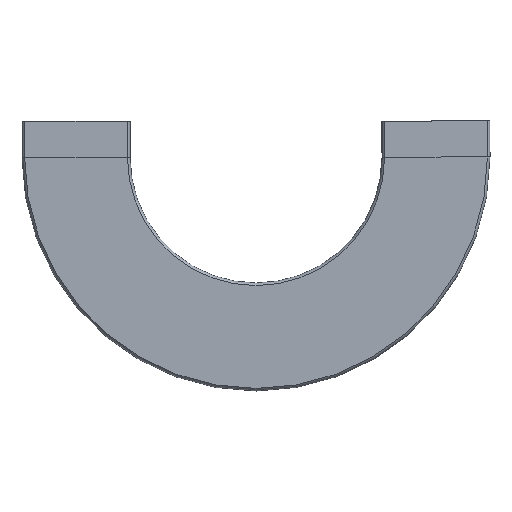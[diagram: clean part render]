
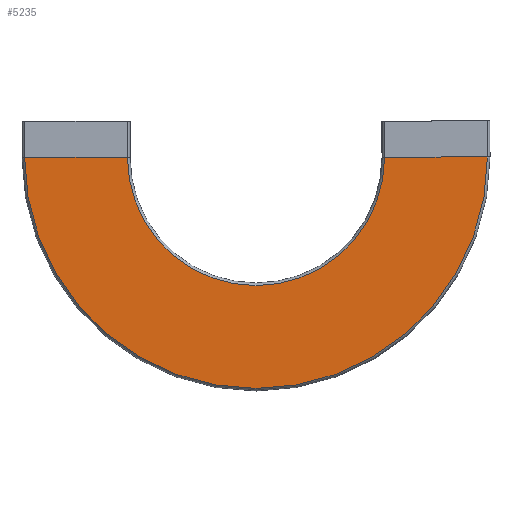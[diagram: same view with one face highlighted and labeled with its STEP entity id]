
A CAD part, front view. The second image highlights one B-rep face of the part: STEP entity #5235.
In plain terms, the highlighted planar face has unit normal (0, -1, 0).
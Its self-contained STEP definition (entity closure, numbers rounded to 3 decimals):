
#96 = DIRECTION ( 'NONE',  ( -1., 0., 0. ) ) ;
#210 = VERTEX_POINT ( 'NONE', #959 ) ;
#327 = EDGE_CURVE ( 'NONE', #5710, #1273, #5293, .T. ) ;
#551 = ORIENTED_EDGE ( 'NONE', *, *, #3009, .T. ) ;
#630 = DIRECTION ( 'NONE',  ( 0., 0., 1. ) ) ;
#753 = DIRECTION ( 'NONE',  ( 0., 1., 0. ) ) ;
#841 = CARTESIAN_POINT ( 'NONE',  ( 457.15, -56.5, -40. ) ) ;
#914 = ORIENTED_EDGE ( 'NONE', *, *, #3203, .T. ) ;
#959 = CARTESIAN_POINT ( 'NONE',  ( 342.85, -56.5, -40. ) ) ;
#1273 = VERTEX_POINT ( 'NONE', #4806 ) ;
#1356 = FACE_OUTER_BOUND ( 'NONE', #5411, .T. ) ;
#1424 = ORIENTED_EDGE ( 'NONE', *, *, #3298, .T. ) ;
#1505 = CARTESIAN_POINT ( 'NONE',  ( 342.85, -56.5, -40. ) ) ;
#1522 = AXIS2_PLACEMENT_3D ( 'NONE', #1932, #3303, #630 ) ;
#1589 = DIRECTION ( 'NONE',  ( 0., 0., 1. ) ) ;
#1868 = VECTOR ( 'NONE', #3477, 1000. ) ;
#1932 = CARTESIAN_POINT ( 'NONE',  ( 200., -56.5, -40. ) ) ;
#2073 = PLANE ( 'NONE',  #2166 ) ;
#2166 = AXIS2_PLACEMENT_3D ( 'NONE', #3435, #753, #3889 ) ;
#2445 = VERTEX_POINT ( 'NONE', #4922 ) ;
#2578 = ORIENTED_EDGE ( 'NONE', *, *, #327, .F. ) ;
#2776 = CIRCLE ( 'NONE', #4647, 142.85 ) ;
#3009 = EDGE_CURVE ( 'NONE', #5710, #210, #4886, .T. ) ;
#3203 = EDGE_CURVE ( 'NONE', #2445, #1273, #3964, .T. ) ;
#3298 = EDGE_CURVE ( 'NONE', #210, #2445, #2776, .T. ) ;
#3303 = DIRECTION ( 'NONE',  ( 0., 1., 0. ) ) ;
#3435 = CARTESIAN_POINT ( 'NONE',  ( 342.85, -56.5, -40. ) ) ;
#3477 = DIRECTION ( 'NONE',  ( -1., 0., 0. ) ) ;
#3541 = VECTOR ( 'NONE', #96, 1000. ) ;
#3837 = DIRECTION ( 'NONE',  ( 0., 1., 0. ) ) ;
#3889 = DIRECTION ( 'NONE',  ( 0., 0., 1. ) ) ;
#3964 = LINE ( 'NONE', #4773, #1868 ) ;
#4647 = AXIS2_PLACEMENT_3D ( 'NONE', #4753, #3837, #1589 ) ;
#4753 = CARTESIAN_POINT ( 'NONE',  ( 200., -56.5, -40. ) ) ;
#4773 = CARTESIAN_POINT ( 'NONE',  ( 0., -56.5, -40. ) ) ;
#4806 = CARTESIAN_POINT ( 'NONE',  ( -57.15, -56.5, -40. ) ) ;
#4886 = LINE ( 'NONE', #1505, #3541 ) ;
#4922 = CARTESIAN_POINT ( 'NONE',  ( 57.15, -56.5, -40. ) ) ;
#5235 = ADVANCED_FACE ( 'NONE', ( #1356 ), #2073, .F. ) ;
#5293 = CIRCLE ( 'NONE', #1522, 257.15 ) ;
#5411 = EDGE_LOOP ( 'NONE', ( #914, #2578, #551, #1424 ) ) ;
#5710 = VERTEX_POINT ( 'NONE', #841 ) ;
